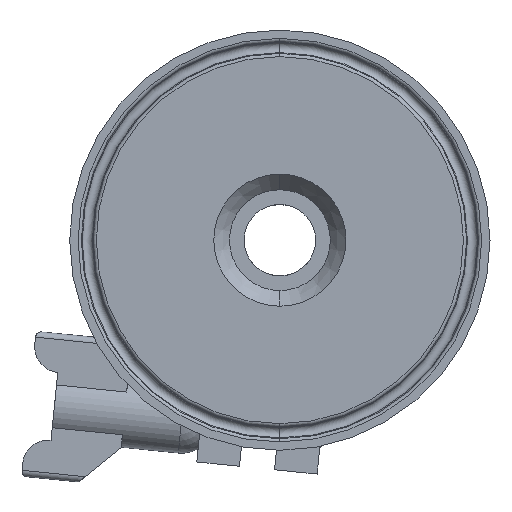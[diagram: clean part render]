
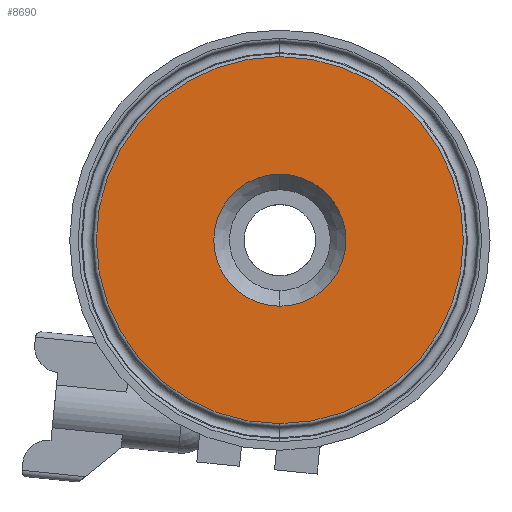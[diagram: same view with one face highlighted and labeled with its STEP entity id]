
A CAD part, front view. The second image highlights one B-rep face of the part: STEP entity #8690.
In plain terms, the highlighted planar face has unit normal (0, -1, 0).
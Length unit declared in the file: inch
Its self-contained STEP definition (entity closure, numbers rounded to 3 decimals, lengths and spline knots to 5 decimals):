
#11 = VERTEX_POINT ( 'NONE', #7731 ) ;
#222 = CARTESIAN_POINT ( 'NONE',  ( 1.49321, 1.71287, 2.76941 ) ) ;
#621 = EDGE_CURVE ( 'NONE', #7960, #2763, #9660, .T. ) ;
#920 = AXIS2_PLACEMENT_3D ( 'NONE', #10904, #10860, #10876 ) ;
#941 = VERTEX_POINT ( 'NONE', #1563 ) ;
#1218 = DIRECTION ( 'NONE',  ( 0., 0., -1. ) ) ;
#1505 = ORIENTED_EDGE ( 'NONE', *, *, #7144, .F. ) ;
#1563 = CARTESIAN_POINT ( 'NONE',  ( 1.49321, 1.71287, 2.20691 ) ) ;
#1594 = CARTESIAN_POINT ( 'NONE',  ( 1.49321, 1.71287, 2.76941 ) ) ;
#2369 = AXIS2_PLACEMENT_3D ( 'NONE', #222, #6964, #1218 ) ;
#2571 = DIRECTION ( 'NONE',  ( 0., 0., -1. ) ) ;
#2626 = DIRECTION ( 'NONE',  ( 0., 1., 0. ) ) ;
#2763 = VERTEX_POINT ( 'NONE', #8379 ) ;
#3363 = ORIENTED_EDGE ( 'NONE', *, *, #621, .T. ) ;
#3751 = ORIENTED_EDGE ( 'NONE', *, *, #4516, .T. ) ;
#3879 = EDGE_CURVE ( 'NONE', #941, #11, #5265, .T. ) ;
#4435 = DIRECTION ( 'NONE',  ( 0., -1., 0. ) ) ;
#4516 = EDGE_CURVE ( 'NONE', #2763, #7960, #8550, .T. ) ;
#4547 = CARTESIAN_POINT ( 'NONE',  ( 0.93071, 1.71287, 2.76941 ) ) ;
#5265 = CIRCLE ( 'NONE', #10265, 0.5625 ) ;
#5489 = CARTESIAN_POINT ( 'NONE',  ( 1.49321, 1.71287, 1.20644 ) ) ;
#5513 = DIRECTION ( 'NONE',  ( 0., 0., 1. ) ) ;
#6413 = FACE_OUTER_BOUND ( 'NONE', #9083, .T. ) ;
#6964 = DIRECTION ( 'NONE',  ( 0., -1., 0. ) ) ;
#7144 = EDGE_CURVE ( 'NONE', #11, #941, #10980, .T. ) ;
#7731 = CARTESIAN_POINT ( 'NONE',  ( 1.49321, 1.71287, 3.33191 ) ) ;
#7960 = VERTEX_POINT ( 'NONE', #5489 ) ;
#8276 = DIRECTION ( 'NONE',  ( 0., -1., 0. ) ) ;
#8311 = FACE_BOUND ( 'NONE', #8807, .T. ) ;
#8379 = CARTESIAN_POINT ( 'NONE',  ( 1.49321, 1.71287, 4.33238 ) ) ;
#8550 = CIRCLE ( 'NONE', #10443, 1.56297 ) ;
#8690 = ADVANCED_FACE ( 'NONE', ( #8311, #6413 ), #10164, .F. ) ;
#8807 = EDGE_LOOP ( 'NONE', ( #9986, #1505 ) ) ;
#9083 = EDGE_LOOP ( 'NONE', ( #3363, #3751 ) ) ;
#9660 = CIRCLE ( 'NONE', #920, 1.56297 ) ;
#9968 = AXIS2_PLACEMENT_3D ( 'NONE', #4547, #2626, #5513 ) ;
#9986 = ORIENTED_EDGE ( 'NONE', *, *, #3879, .F. ) ;
#10085 = CARTESIAN_POINT ( 'NONE',  ( 1.49321, 1.71287, 2.76941 ) ) ;
#10164 = PLANE ( 'NONE',  #9968 ) ;
#10265 = AXIS2_PLACEMENT_3D ( 'NONE', #1594, #8276, #2571 ) ;
#10443 = AXIS2_PLACEMENT_3D ( 'NONE', #10085, #4435, #11053 ) ;
#10860 = DIRECTION ( 'NONE',  ( 0., -1., 0. ) ) ;
#10876 = DIRECTION ( 'NONE',  ( 0., 0., -1. ) ) ;
#10904 = CARTESIAN_POINT ( 'NONE',  ( 1.49321, 1.71287, 2.76941 ) ) ;
#10980 = CIRCLE ( 'NONE', #2369, 0.5625 ) ;
#11053 = DIRECTION ( 'NONE',  ( 0., 0., -1. ) ) ;
